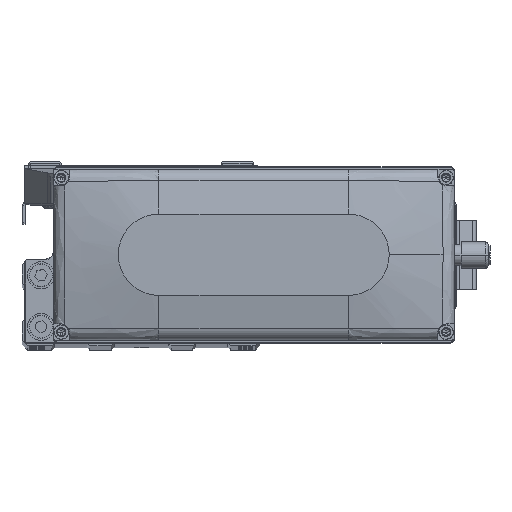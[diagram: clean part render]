
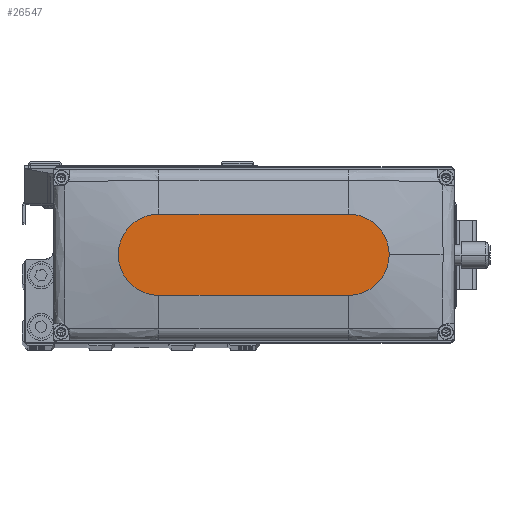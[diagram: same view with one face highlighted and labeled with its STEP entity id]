
A CAD part, top view. The second image highlights one B-rep face of the part: STEP entity #26547.
In plain terms, the highlighted planar face has unit normal (0, 0, 1).
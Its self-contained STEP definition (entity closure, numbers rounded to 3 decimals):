
#1690 = DIRECTION ( 'NONE',  ( 1., 0., 0. ) ) ;
#1694 = EDGE_CURVE ( 'NONE', #8352, #35294, #41459, .T. ) ;
#2038 = DIRECTION ( 'NONE',  ( 1., 0., 0. ) ) ;
#3635 = DIRECTION ( 'NONE',  ( 0., 0., 1. ) ) ;
#3643 = AXIS2_PLACEMENT_3D ( 'NONE', #9950, #25356, #40768 ) ;
#4061 = EDGE_CURVE ( 'NONE', #26141, #8352, #33523, .T. ) ;
#5213 = EDGE_CURVE ( 'NONE', #42101, #26141, #44228, .T. ) ;
#6837 = CARTESIAN_POINT ( 'NONE',  ( -35., -15., 35. ) ) ;
#7287 = CARTESIAN_POINT ( 'NONE',  ( 35., 15., 35. ) ) ;
#7409 = FACE_OUTER_BOUND ( 'NONE', #16811, .T. ) ;
#8352 = VERTEX_POINT ( 'NONE', #10477 ) ;
#9608 = CARTESIAN_POINT ( 'NONE',  ( -35., 15., 35. ) ) ;
#9950 = CARTESIAN_POINT ( 'NONE',  ( 35., 0., 35. ) ) ;
#10477 = CARTESIAN_POINT ( 'NONE',  ( -35., -15., 35. ) ) ;
#11737 = AXIS2_PLACEMENT_3D ( 'NONE', #21232, #36623, #2038 ) ;
#14553 = ORIENTED_EDGE ( 'NONE', *, *, #5213, .T. ) ;
#16648 = ORIENTED_EDGE ( 'NONE', *, *, #47918, .T. ) ;
#16811 = EDGE_LOOP ( 'NONE', ( #14553, #24139, #32588, #16648, #33557 ) ) ;
#19048 = DIRECTION ( 'NONE',  ( 1., 0., 0. ) ) ;
#19748 = CIRCLE ( 'NONE', #26180, 15. ) ;
#20887 = CARTESIAN_POINT ( 'NONE',  ( 35., 0., 35. ) ) ;
#21232 = CARTESIAN_POINT ( 'NONE',  ( -35., 0., 35. ) ) ;
#22254 = DIRECTION ( 'NONE',  ( 1., 0., 0. ) ) ;
#22831 = PLANE ( 'NONE',  #43351 ) ;
#24139 = ORIENTED_EDGE ( 'NONE', *, *, #4061, .T. ) ;
#25015 = DIRECTION ( 'NONE',  ( -1., 0., 0. ) ) ;
#25356 = DIRECTION ( 'NONE',  ( 0., 0., 1. ) ) ;
#25401 = CIRCLE ( 'NONE', #3643, 15. ) ;
#26141 = VERTEX_POINT ( 'NONE', #38104 ) ;
#26180 = AXIS2_PLACEMENT_3D ( 'NONE', #20887, #36271, #1690 ) ;
#26547 = ADVANCED_FACE ( 'NONE', ( #7409 ), #22831, .T. ) ;
#26673 = CARTESIAN_POINT ( 'NONE',  ( 50., 0., 35. ) ) ;
#27973 = VECTOR ( 'NONE', #25015, 1000. ) ;
#32588 = ORIENTED_EDGE ( 'NONE', *, *, #1694, .T. ) ;
#33523 = CIRCLE ( 'NONE', #11737, 15. ) ;
#33557 = ORIENTED_EDGE ( 'NONE', *, *, #37713, .T. ) ;
#35294 = VERTEX_POINT ( 'NONE', #36086 ) ;
#36086 = CARTESIAN_POINT ( 'NONE',  ( 35., -15., 35. ) ) ;
#36271 = DIRECTION ( 'NONE',  ( 0., 0., 1. ) ) ;
#36623 = DIRECTION ( 'NONE',  ( 0., 0., 1. ) ) ;
#37713 = EDGE_CURVE ( 'NONE', #48159, #42101, #25401, .T. ) ;
#38104 = CARTESIAN_POINT ( 'NONE',  ( -35., 15., 35. ) ) ;
#38217 = CARTESIAN_POINT ( 'NONE',  ( 0., 0., 35. ) ) ;
#40768 = DIRECTION ( 'NONE',  ( 1., 0., 0. ) ) ;
#41459 = LINE ( 'NONE', #6837, #45962 ) ;
#42101 = VERTEX_POINT ( 'NONE', #7287 ) ;
#43351 = AXIS2_PLACEMENT_3D ( 'NONE', #38217, #3635, #19048 ) ;
#44228 = LINE ( 'NONE', #9608, #27973 ) ;
#45962 = VECTOR ( 'NONE', #22254, 1000. ) ;
#47918 = EDGE_CURVE ( 'NONE', #35294, #48159, #19748, .T. ) ;
#48159 = VERTEX_POINT ( 'NONE', #26673 ) ;
